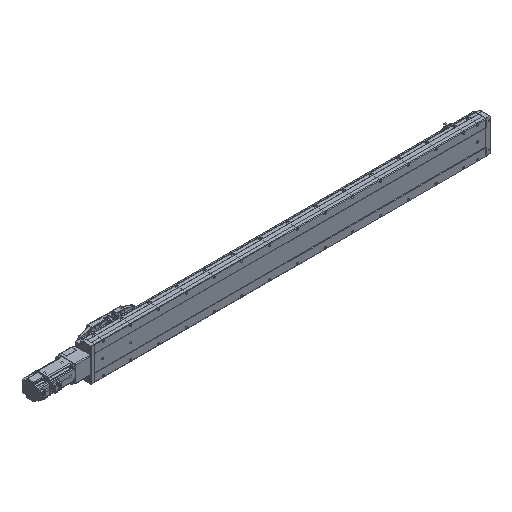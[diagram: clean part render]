
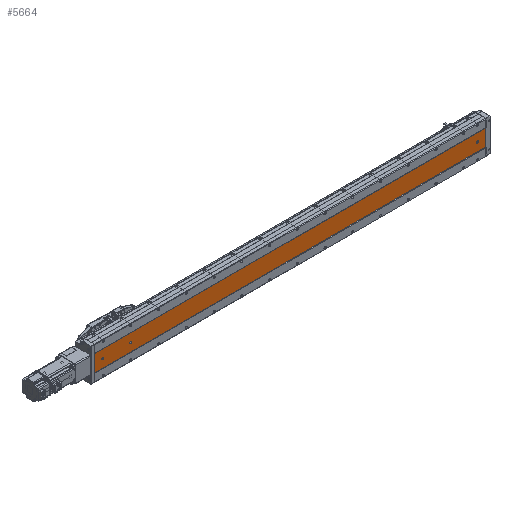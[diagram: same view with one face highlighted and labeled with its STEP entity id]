
A CAD part, isometric view. The second image highlights one B-rep face of the part: STEP entity #5664.
In plain terms, the highlighted planar face has unit normal (0, -1, 0).
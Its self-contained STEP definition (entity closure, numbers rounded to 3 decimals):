
#350 = LINE ( 'NONE', #49179, #68253 ) ;
#364 = EDGE_CURVE ( 'NONE', #84076, #32227, #61127, .T. ) ;
#1435 = DIRECTION ( 'NONE',  ( 0., 0., 1. ) ) ;
#2398 = CARTESIAN_POINT ( 'NONE',  ( -39.892, -52.848, 30. ) ) ;
#5661 = VERTEX_POINT ( 'NONE', #19517 ) ;
#5664 = ADVANCED_FACE ( 'NONE', ( #50096, #98640, #74393, #33150 ), #80875, .F. ) ;
#7530 = CARTESIAN_POINT ( 'NONE',  ( -36.392, -52.848, 30. ) ) ;
#7742 = VERTEX_POINT ( 'NONE', #65482 ) ;
#8861 = CIRCLE ( 'NONE', #25167, 3.5 ) ;
#10158 = DIRECTION ( 'NONE',  ( 0., 1., 0. ) ) ;
#10779 = EDGE_CURVE ( 'NONE', #13313, #96115, #8861, .T. ) ;
#11053 = CIRCLE ( 'NONE', #68023, 3.5 ) ;
#11159 = CARTESIAN_POINT ( 'NONE',  ( -39.892, -52.848, 1381. ) ) ;
#11869 = VERTEX_POINT ( 'NONE', #78726 ) ;
#12178 = EDGE_CURVE ( 'NONE', #7742, #56085, #74242, .T. ) ;
#13313 = VERTEX_POINT ( 'NONE', #42508 ) ;
#14979 = ORIENTED_EDGE ( 'NONE', *, *, #10779, .T. ) ;
#16665 = VECTOR ( 'NONE', #1435, 1000. ) ;
#17669 = ORIENTED_EDGE ( 'NONE', *, *, #63781, .T. ) ;
#17680 = CARTESIAN_POINT ( 'NONE',  ( -39.892, -52.848, 1381. ) ) ;
#18194 = AXIS2_PLACEMENT_3D ( 'NONE', #2398, #10158, #55608 ) ;
#18214 = CIRCLE ( 'NONE', #37313, 3.5 ) ;
#18290 = CARTESIAN_POINT ( 'NONE',  ( -43.392, -52.848, 30. ) ) ;
#18566 = CARTESIAN_POINT ( 'NONE',  ( -9.892, -52.848, 1411. ) ) ;
#19517 = CARTESIAN_POINT ( 'NONE',  ( -39.892, -52.848, 26.5 ) ) ;
#20240 = LINE ( 'NONE', #84916, #26237 ) ;
#20792 = EDGE_CURVE ( 'NONE', #39570, #5661, #11053, .T. ) ;
#21464 = EDGE_CURVE ( 'NONE', #96115, #13313, #82586, .T. ) ;
#21977 = ORIENTED_EDGE ( 'NONE', *, *, #65144, .T. ) ;
#22082 = CARTESIAN_POINT ( 'NONE',  ( -69.892, -52.848, 0. ) ) ;
#24860 = CARTESIAN_POINT ( 'NONE',  ( -36.392, -52.848, 32. ) ) ;
#25167 = AXIS2_PLACEMENT_3D ( 'NONE', #17680, #25402, #64376 ) ;
#25402 = DIRECTION ( 'NONE',  ( 0., 1., 0. ) ) ;
#26237 = VECTOR ( 'NONE', #38436, 1000. ) ;
#26517 = ORIENTED_EDGE ( 'NONE', *, *, #92745, .T. ) ;
#27225 = DIRECTION ( 'NONE',  ( 0., 0., 1. ) ) ;
#27291 = DIRECTION ( 'NONE',  ( 0., 0., -1. ) ) ;
#28554 = AXIS2_PLACEMENT_3D ( 'NONE', #11159, #41381, #95653 ) ;
#30890 = VERTEX_POINT ( 'NONE', #57149 ) ;
#32227 = VERTEX_POINT ( 'NONE', #18566 ) ;
#33150 = FACE_OUTER_BOUND ( 'NONE', #60228, .T. ) ;
#35080 = ORIENTED_EDGE ( 'NONE', *, *, #12178, .T. ) ;
#35771 = LINE ( 'NONE', #83357, #38211 ) ;
#37313 = AXIS2_PLACEMENT_3D ( 'NONE', #73687, #95804, #72372 ) ;
#38211 = VECTOR ( 'NONE', #44358, 1000. ) ;
#38435 = CARTESIAN_POINT ( 'NONE',  ( -39.892, -52.848, 30. ) ) ;
#38436 = DIRECTION ( 'NONE',  ( 1., 0., 0. ) ) ;
#39049 = ORIENTED_EDGE ( 'NONE', *, *, #70945, .T. ) ;
#39570 = VERTEX_POINT ( 'NONE', #7530 ) ;
#40077 = DIRECTION ( 'NONE',  ( 0., 0., -1. ) ) ;
#40445 = EDGE_CURVE ( 'NONE', #30890, #43065, #18214, .T. ) ;
#40643 = CARTESIAN_POINT ( 'NONE',  ( -69.892, -52.848, 1411. ) ) ;
#41381 = DIRECTION ( 'NONE',  ( 0., 1., 0. ) ) ;
#42508 = CARTESIAN_POINT ( 'NONE',  ( -39.892, -52.848, 1384.5 ) ) ;
#42847 = DIRECTION ( 'NONE',  ( 0., 1., 0. ) ) ;
#43065 = VERTEX_POINT ( 'NONE', #97169 ) ;
#44045 = CARTESIAN_POINT ( 'NONE',  ( -39.892, -52.848, 32. ) ) ;
#44181 = ORIENTED_EDGE ( 'NONE', *, *, #49379, .T. ) ;
#44358 = DIRECTION ( 'NONE',  ( 0., 0., -1. ) ) ;
#44719 = DIRECTION ( 'NONE',  ( 0., 0., 1. ) ) ;
#49179 = CARTESIAN_POINT ( 'NONE',  ( -36.392, -52.848, 1411. ) ) ;
#49379 = EDGE_CURVE ( 'NONE', #43065, #30890, #84694, .T. ) ;
#50096 = FACE_BOUND ( 'NONE', #59474, .T. ) ;
#54808 = AXIS2_PLACEMENT_3D ( 'NONE', #74238, #82724, #82050 ) ;
#55608 = DIRECTION ( 'NONE',  ( 0., 0., 1. ) ) ;
#56085 = VERTEX_POINT ( 'NONE', #24860 ) ;
#57149 = CARTESIAN_POINT ( 'NONE',  ( -39.892, -52.848, 1277.5 ) ) ;
#57557 = ORIENTED_EDGE ( 'NONE', *, *, #40445, .T. ) ;
#57664 = ORIENTED_EDGE ( 'NONE', *, *, #364, .F. ) ;
#58248 = EDGE_LOOP ( 'NONE', ( #61486, #14979 ) ) ;
#58662 = EDGE_CURVE ( 'NONE', #32227, #11869, #80509, .T. ) ;
#59474 = EDGE_LOOP ( 'NONE', ( #39049, #35080, #21977, #68064, #64391 ) ) ;
#60228 = EDGE_LOOP ( 'NONE', ( #26517, #65511, #57664, #17669 ) ) ;
#61127 = LINE ( 'NONE', #40643, #96417 ) ;
#61486 = ORIENTED_EDGE ( 'NONE', *, *, #21464, .T. ) ;
#63397 = EDGE_LOOP ( 'NONE', ( #57557, #44181 ) ) ;
#63781 = EDGE_CURVE ( 'NONE', #84076, #96992, #35771, .T. ) ;
#64210 = AXIS2_PLACEMENT_3D ( 'NONE', #44045, #67384, #44719 ) ;
#64376 = DIRECTION ( 'NONE',  ( 0., 0., 1. ) ) ;
#64391 = ORIENTED_EDGE ( 'NONE', *, *, #98795, .T. ) ;
#65144 = EDGE_CURVE ( 'NONE', #56085, #39570, #350, .T. ) ;
#65482 = CARTESIAN_POINT ( 'NONE',  ( -43.392, -52.848, 32. ) ) ;
#65511 = ORIENTED_EDGE ( 'NONE', *, *, #58662, .F. ) ;
#67384 = DIRECTION ( 'NONE',  ( 0., 1., 0. ) ) ;
#68023 = AXIS2_PLACEMENT_3D ( 'NONE', #38435, #92720, #76749 ) ;
#68064 = ORIENTED_EDGE ( 'NONE', *, *, #20792, .T. ) ;
#68253 = VECTOR ( 'NONE', #40077, 1000. ) ;
#70945 = EDGE_CURVE ( 'NONE', #71527, #7742, #72460, .T. ) ;
#71527 = VERTEX_POINT ( 'NONE', #18290 ) ;
#72372 = DIRECTION ( 'NONE',  ( 0., 0., 1. ) ) ;
#72460 = LINE ( 'NONE', #95328, #16665 ) ;
#72842 = AXIS2_PLACEMENT_3D ( 'NONE', #89341, #42847, #27225 ) ;
#73687 = CARTESIAN_POINT ( 'NONE',  ( -39.892, -52.848, 1281. ) ) ;
#74238 = CARTESIAN_POINT ( 'NONE',  ( -39.892, -52.848, 1281. ) ) ;
#74242 = CIRCLE ( 'NONE', #64210, 3.5 ) ;
#74393 = FACE_BOUND ( 'NONE', #58248, .T. ) ;
#74436 = VECTOR ( 'NONE', #27291, 1000. ) ;
#76749 = DIRECTION ( 'NONE',  ( 0., 0., 1. ) ) ;
#78726 = CARTESIAN_POINT ( 'NONE',  ( -9.892, -52.848, 0. ) ) ;
#80509 = LINE ( 'NONE', #97849, #74436 ) ;
#80875 = PLANE ( 'NONE',  #72842 ) ;
#82050 = DIRECTION ( 'NONE',  ( 0., 0., 1. ) ) ;
#82586 = CIRCLE ( 'NONE', #28554, 3.5 ) ;
#82724 = DIRECTION ( 'NONE',  ( 0., 1., 0. ) ) ;
#83122 = CIRCLE ( 'NONE', #18194, 3.5 ) ;
#83357 = CARTESIAN_POINT ( 'NONE',  ( -69.892, -52.848, 1411. ) ) ;
#84076 = VERTEX_POINT ( 'NONE', #90992 ) ;
#84694 = CIRCLE ( 'NONE', #54808, 3.5 ) ;
#84916 = CARTESIAN_POINT ( 'NONE',  ( -69.892, -52.848, 0. ) ) ;
#88434 = DIRECTION ( 'NONE',  ( 1., 0., 0. ) ) ;
#88987 = CARTESIAN_POINT ( 'NONE',  ( -39.892, -52.848, 1377.5 ) ) ;
#89341 = CARTESIAN_POINT ( 'NONE',  ( -69.892, -52.848, 1411. ) ) ;
#90992 = CARTESIAN_POINT ( 'NONE',  ( -69.892, -52.848, 1411. ) ) ;
#92720 = DIRECTION ( 'NONE',  ( 0., 1., 0. ) ) ;
#92745 = EDGE_CURVE ( 'NONE', #96992, #11869, #20240, .T. ) ;
#95328 = CARTESIAN_POINT ( 'NONE',  ( -43.392, -52.848, 1411. ) ) ;
#95653 = DIRECTION ( 'NONE',  ( 0., 0., 1. ) ) ;
#95804 = DIRECTION ( 'NONE',  ( 0., 1., 0. ) ) ;
#96115 = VERTEX_POINT ( 'NONE', #88987 ) ;
#96417 = VECTOR ( 'NONE', #88434, 1000. ) ;
#96992 = VERTEX_POINT ( 'NONE', #22082 ) ;
#97169 = CARTESIAN_POINT ( 'NONE',  ( -39.892, -52.848, 1284.5 ) ) ;
#97849 = CARTESIAN_POINT ( 'NONE',  ( -9.892, -52.848, 1411. ) ) ;
#98640 = FACE_BOUND ( 'NONE', #63397, .T. ) ;
#98795 = EDGE_CURVE ( 'NONE', #5661, #71527, #83122, .T. ) ;
